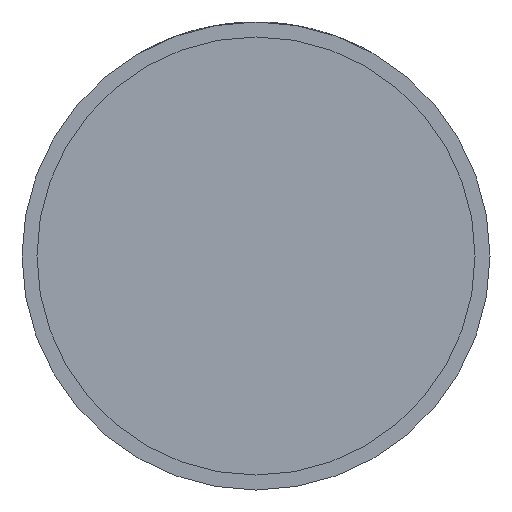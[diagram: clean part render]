
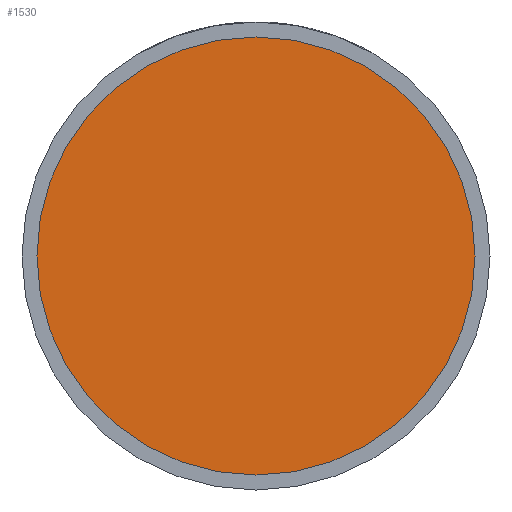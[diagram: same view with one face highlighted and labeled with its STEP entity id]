
A CAD part, front view. The second image highlights one B-rep face of the part: STEP entity #1530.
In plain terms, the highlighted planar face has unit normal (0, -1, 0).
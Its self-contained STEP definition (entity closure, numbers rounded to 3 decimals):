
#25 = FACE_OUTER_BOUND ( 'NONE', #171, .T. ) ;
#102 = DIRECTION ( 'NONE',  ( 1., 0., 0. ) ) ;
#171 = EDGE_LOOP ( 'NONE', ( #1006, #3745 ) ) ;
#255 = DIRECTION ( 'NONE',  ( 0., -1., 0. ) ) ;
#291 = AXIS2_PLACEMENT_3D ( 'NONE', #2986, #2067, #985 ) ;
#402 = CARTESIAN_POINT ( 'NONE',  ( 33.7, -20., 0. ) ) ;
#579 = CARTESIAN_POINT ( 'NONE',  ( 0., -20., 0. ) ) ;
#779 = CARTESIAN_POINT ( 'NONE',  ( 0., -20., 0. ) ) ;
#985 = DIRECTION ( 'NONE',  ( 1., 0., 0. ) ) ;
#1006 = ORIENTED_EDGE ( 'NONE', *, *, #1685, .T. ) ;
#1428 = DIRECTION ( 'NONE',  ( 0., -1., 0. ) ) ;
#1530 = ADVANCED_FACE ( 'NONE', ( #25 ), #4053, .T. ) ;
#1605 = AXIS2_PLACEMENT_3D ( 'NONE', #779, #1428, #102 ) ;
#1685 = EDGE_CURVE ( 'NONE', #1776, #2481, #3407, .T. ) ;
#1776 = VERTEX_POINT ( 'NONE', #402 ) ;
#2067 = DIRECTION ( 'NONE',  ( 0., -1., 0. ) ) ;
#2481 = VERTEX_POINT ( 'NONE', #3174 ) ;
#2986 = CARTESIAN_POINT ( 'NONE',  ( 33.7, -20., 0. ) ) ;
#3016 = EDGE_CURVE ( 'NONE', #2481, #1776, #4184, .T. ) ;
#3174 = CARTESIAN_POINT ( 'NONE',  ( -33.7, -20., 0. ) ) ;
#3407 = CIRCLE ( 'NONE', #4250, 33.7 ) ;
#3573 = DIRECTION ( 'NONE',  ( 1., 0., 0. ) ) ;
#3745 = ORIENTED_EDGE ( 'NONE', *, *, #3016, .T. ) ;
#4053 = PLANE ( 'NONE',  #291 ) ;
#4184 = CIRCLE ( 'NONE', #1605, 33.7 ) ;
#4250 = AXIS2_PLACEMENT_3D ( 'NONE', #579, #255, #3573 ) ;
